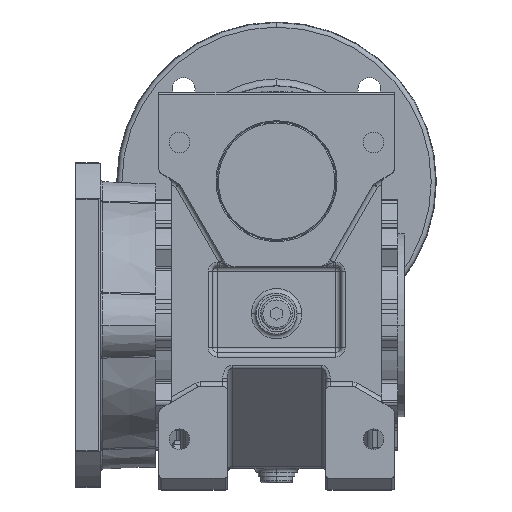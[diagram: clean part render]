
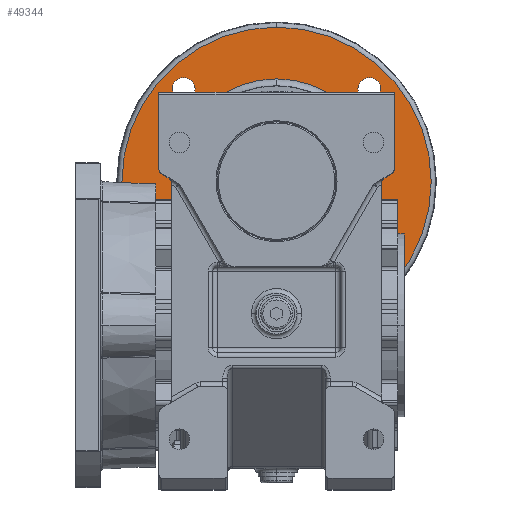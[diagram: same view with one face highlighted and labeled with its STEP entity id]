
A CAD part, top view. The second image highlights one B-rep face of the part: STEP entity #49344.
In plain terms, the highlighted planar face has unit normal (0, 0, 1).
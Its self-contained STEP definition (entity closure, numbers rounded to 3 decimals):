
#60 = EDGE_CURVE ( 'NONE', #30299, #13841, #6161, .T. ) ;
#1347 = CARTESIAN_POINT ( 'NONE',  ( 45.659, -40.659, 10. ) ) ;
#2016 = AXIS2_PLACEMENT_3D ( 'NONE', #42783, #11420, #49946 ) ;
#3577 = CIRCLE ( 'NONE', #35588, 5. ) ;
#5295 = AXIS2_PLACEMENT_3D ( 'NONE', #19250, #63593, #51116 ) ;
#5329 = FACE_BOUND ( 'NONE', #42596, .T. ) ;
#5349 = DIRECTION ( 'NONE',  ( 0., 0., -1. ) ) ;
#5505 = CARTESIAN_POINT ( 'NONE',  ( -45.659, -40.659, 10. ) ) ;
#5666 = CARTESIAN_POINT ( 'NONE',  ( 35.659, -40.659, 10. ) ) ;
#6161 = CIRCLE ( 'NONE', #40768, 5. ) ;
#7124 = VERTEX_POINT ( 'NONE', #50286 ) ;
#7614 = DIRECTION ( 'NONE',  ( 0., 0., -1. ) ) ;
#7938 = EDGE_CURVE ( 'NONE', #54311, #66239, #29774, .T. ) ;
#11184 = CARTESIAN_POINT ( 'NONE',  ( 40.659, 40.659, 10. ) ) ;
#11420 = DIRECTION ( 'NONE',  ( 0., 0., -1. ) ) ;
#11890 = EDGE_CURVE ( 'NONE', #13841, #30299, #40242, .T. ) ;
#12741 = DIRECTION ( 'NONE',  ( 1., 0., 0. ) ) ;
#13841 = VERTEX_POINT ( 'NONE', #5505 ) ;
#14231 = VERTEX_POINT ( 'NONE', #43074 ) ;
#15498 = EDGE_LOOP ( 'NONE', ( #76100, #74410 ) ) ;
#16275 = AXIS2_PLACEMENT_3D ( 'NONE', #37985, #76502, #18596 ) ;
#17543 = DIRECTION ( 'NONE',  ( 0., 0., -1. ) ) ;
#18596 = DIRECTION ( 'NONE',  ( 1., 0., 0. ) ) ;
#19250 = CARTESIAN_POINT ( 'NONE',  ( 0., 0., 10. ) ) ;
#19869 = CARTESIAN_POINT ( 'NONE',  ( -40.659, -40.659, 10. ) ) ;
#20449 = DIRECTION ( 'NONE',  ( 0., 0., -1. ) ) ;
#20757 = VERTEX_POINT ( 'NONE', #78289 ) ;
#21051 = CIRCLE ( 'NONE', #52543, 5. ) ;
#21224 = DIRECTION ( 'NONE',  ( -1., 0., 0. ) ) ;
#21712 = EDGE_LOOP ( 'NONE', ( #81101, #48165 ) ) ;
#22206 = VERTEX_POINT ( 'NONE', #5666 ) ;
#22462 = CIRCLE ( 'NONE', #43045, 67.719 ) ;
#22600 = VERTEX_POINT ( 'NONE', #1347 ) ;
#22606 = EDGE_CURVE ( 'NONE', #38989, #7124, #21051, .T. ) ;
#22732 = CARTESIAN_POINT ( 'NONE',  ( -35.659, -40.659, 10. ) ) ;
#23742 = CARTESIAN_POINT ( 'NONE',  ( 0., 0., 10. ) ) ;
#25436 = CARTESIAN_POINT ( 'NONE',  ( 45.072, 0., 10. ) ) ;
#25745 = PLANE ( 'NONE',  #16275 ) ;
#25862 = CARTESIAN_POINT ( 'NONE',  ( 45.659, 40.659, 10. ) ) ;
#26231 = DIRECTION ( 'NONE',  ( 1., 0., 0. ) ) ;
#26319 = DIRECTION ( 'NONE',  ( 0., 0., -1. ) ) ;
#26532 = EDGE_CURVE ( 'NONE', #22206, #22600, #28293, .T. ) ;
#26605 = DIRECTION ( 'NONE',  ( 1., 0., 0. ) ) ;
#27776 = EDGE_CURVE ( 'NONE', #50862, #20757, #37054, .T. ) ;
#28150 = FACE_BOUND ( 'NONE', #15498, .T. ) ;
#28293 = CIRCLE ( 'NONE', #41116, 5. ) ;
#29023 = AXIS2_PLACEMENT_3D ( 'NONE', #47769, #66332, #73264 ) ;
#29774 = CIRCLE ( 'NONE', #5295, 45.072 ) ;
#30299 = VERTEX_POINT ( 'NONE', #22732 ) ;
#30434 = CIRCLE ( 'NONE', #29023, 45.072 ) ;
#31203 = AXIS2_PLACEMENT_3D ( 'NONE', #46397, #65774, #72153 ) ;
#31784 = DIRECTION ( 'NONE',  ( 1., 0., 0. ) ) ;
#32577 = ORIENTED_EDGE ( 'NONE', *, *, #60, .T. ) ;
#33026 = EDGE_LOOP ( 'NONE', ( #58411, #44484 ) ) ;
#33107 = EDGE_CURVE ( 'NONE', #74571, #14231, #68549, .T. ) ;
#35588 = AXIS2_PLACEMENT_3D ( 'NONE', #39270, #20449, #26231 ) ;
#36452 = AXIS2_PLACEMENT_3D ( 'NONE', #65267, #7614, #21224 ) ;
#36655 = ORIENTED_EDGE ( 'NONE', *, *, #50938, .T. ) ;
#37054 = CIRCLE ( 'NONE', #50395, 5. ) ;
#37985 = CARTESIAN_POINT ( 'NONE',  ( 0., 67.719, 10. ) ) ;
#38251 = CARTESIAN_POINT ( 'NONE',  ( -40.659, -40.659, 10. ) ) ;
#38763 = EDGE_LOOP ( 'NONE', ( #70943, #36655 ) ) ;
#38786 = DIRECTION ( 'NONE',  ( 0., 0., -1. ) ) ;
#38989 = VERTEX_POINT ( 'NONE', #78600 ) ;
#39270 = CARTESIAN_POINT ( 'NONE',  ( 40.659, -40.659, 10. ) ) ;
#39845 = CIRCLE ( 'NONE', #2016, 5. ) ;
#40242 = CIRCLE ( 'NONE', #56556, 5. ) ;
#40768 = AXIS2_PLACEMENT_3D ( 'NONE', #19869, #63410, #31784 ) ;
#41116 = AXIS2_PLACEMENT_3D ( 'NONE', #81260, #17543, #61901 ) ;
#42596 = EDGE_LOOP ( 'NONE', ( #64382, #56335 ) ) ;
#42783 = CARTESIAN_POINT ( 'NONE',  ( 40.659, 40.659, 10. ) ) ;
#43045 = AXIS2_PLACEMENT_3D ( 'NONE', #23742, #80279, #55374 ) ;
#43074 = CARTESIAN_POINT ( 'NONE',  ( 67.719, 0., 10. ) ) ;
#44484 = ORIENTED_EDGE ( 'NONE', *, *, #70498, .T. ) ;
#45481 = CARTESIAN_POINT ( 'NONE',  ( -40.659, 40.659, 10. ) ) ;
#46397 = CARTESIAN_POINT ( 'NONE',  ( -40.659, 40.659, 10. ) ) ;
#47027 = FACE_BOUND ( 'NONE', #33026, .T. ) ;
#47517 = DIRECTION ( 'NONE',  ( 1., 0., 0. ) ) ;
#47769 = CARTESIAN_POINT ( 'NONE',  ( 0., 0., 10. ) ) ;
#48165 = ORIENTED_EDGE ( 'NONE', *, *, #76236, .F. ) ;
#49344 = ADVANCED_FACE ( 'NONE', ( #63875, #47027, #59879, #28150, #5329, #73843 ), #25745, .T. ) ;
#49946 = DIRECTION ( 'NONE',  ( 1., 0., 0. ) ) ;
#50190 = CARTESIAN_POINT ( 'NONE',  ( -45.072, 0., 10. ) ) ;
#50286 = CARTESIAN_POINT ( 'NONE',  ( -35.659, 40.659, 10. ) ) ;
#50395 = AXIS2_PLACEMENT_3D ( 'NONE', #11184, #5349, #47517 ) ;
#50862 = VERTEX_POINT ( 'NONE', #25862 ) ;
#50938 = EDGE_CURVE ( 'NONE', #7124, #38989, #57260, .T. ) ;
#51087 = EDGE_CURVE ( 'NONE', #66239, #54311, #30434, .T. ) ;
#51116 = DIRECTION ( 'NONE',  ( -1., 0., 0. ) ) ;
#52543 = AXIS2_PLACEMENT_3D ( 'NONE', #45481, #26319, #26605 ) ;
#54311 = VERTEX_POINT ( 'NONE', #25436 ) ;
#54498 = EDGE_CURVE ( 'NONE', #20757, #50862, #39845, .T. ) ;
#55374 = DIRECTION ( 'NONE',  ( -1., 0., 0. ) ) ;
#56335 = ORIENTED_EDGE ( 'NONE', *, *, #7938, .T. ) ;
#56556 = AXIS2_PLACEMENT_3D ( 'NONE', #38251, #38786, #12741 ) ;
#57260 = CIRCLE ( 'NONE', #31203, 5. ) ;
#58411 = ORIENTED_EDGE ( 'NONE', *, *, #26532, .T. ) ;
#59879 = FACE_BOUND ( 'NONE', #38763, .T. ) ;
#61901 = DIRECTION ( 'NONE',  ( 1., 0., 0. ) ) ;
#63410 = DIRECTION ( 'NONE',  ( 0., 0., -1. ) ) ;
#63581 = EDGE_LOOP ( 'NONE', ( #65430, #32577 ) ) ;
#63593 = DIRECTION ( 'NONE',  ( 0., 0., -1. ) ) ;
#63875 = FACE_BOUND ( 'NONE', #63581, .T. ) ;
#64382 = ORIENTED_EDGE ( 'NONE', *, *, #51087, .T. ) ;
#65267 = CARTESIAN_POINT ( 'NONE',  ( 0., 0., 10. ) ) ;
#65430 = ORIENTED_EDGE ( 'NONE', *, *, #11890, .T. ) ;
#65774 = DIRECTION ( 'NONE',  ( 0., 0., -1. ) ) ;
#66239 = VERTEX_POINT ( 'NONE', #50190 ) ;
#66332 = DIRECTION ( 'NONE',  ( 0., 0., -1. ) ) ;
#68549 = CIRCLE ( 'NONE', #36452, 67.719 ) ;
#70498 = EDGE_CURVE ( 'NONE', #22600, #22206, #3577, .T. ) ;
#70943 = ORIENTED_EDGE ( 'NONE', *, *, #22606, .T. ) ;
#72153 = DIRECTION ( 'NONE',  ( 1., 0., 0. ) ) ;
#73264 = DIRECTION ( 'NONE',  ( -1., 0., 0. ) ) ;
#73843 = FACE_OUTER_BOUND ( 'NONE', #21712, .T. ) ;
#74410 = ORIENTED_EDGE ( 'NONE', *, *, #27776, .T. ) ;
#74571 = VERTEX_POINT ( 'NONE', #80133 ) ;
#76100 = ORIENTED_EDGE ( 'NONE', *, *, #54498, .T. ) ;
#76236 = EDGE_CURVE ( 'NONE', #14231, #74571, #22462, .T. ) ;
#76502 = DIRECTION ( 'NONE',  ( 0., 0., 1. ) ) ;
#78289 = CARTESIAN_POINT ( 'NONE',  ( 35.659, 40.659, 10. ) ) ;
#78600 = CARTESIAN_POINT ( 'NONE',  ( -45.659, 40.659, 10. ) ) ;
#80133 = CARTESIAN_POINT ( 'NONE',  ( -67.719, 0., 10. ) ) ;
#80279 = DIRECTION ( 'NONE',  ( 0., 0., -1. ) ) ;
#81101 = ORIENTED_EDGE ( 'NONE', *, *, #33107, .F. ) ;
#81260 = CARTESIAN_POINT ( 'NONE',  ( 40.659, -40.659, 10. ) ) ;
